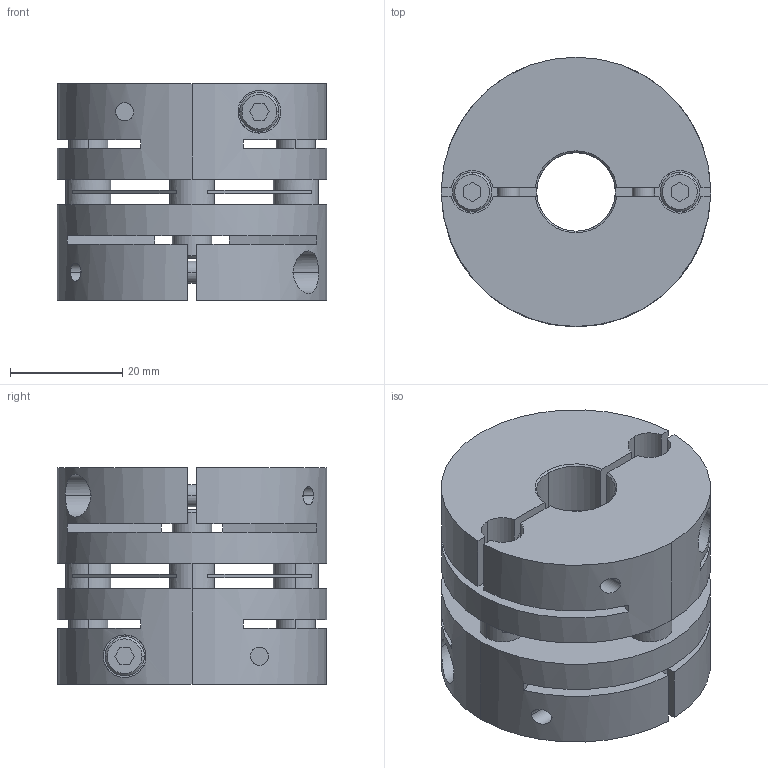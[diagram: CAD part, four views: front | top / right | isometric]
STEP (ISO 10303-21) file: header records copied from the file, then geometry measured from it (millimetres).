
FILE_DESCRIPTION((''),'2;1');
FILE_NAME('LAS-48C-14×16.stp','2013-06-12T09:38:26',(''),(''),'AutoCAD STEP 2000i','AutoCAD 2000i',', , ');
FILE_SCHEMA(('CONFIG_CONTROL_DESIGN'));
Length unit declared in the file: millimetre
Products named in the file (5): LAS-48C-12×12; 忣兜1; LA-4802-D12-1; LA-4802-D12; LAS48-ITA
Assembly tree (4 placements, depth 2):
  LAS-48C-12×12
    忣兜1
    LA-4802-D12-1
    LA-4802-D12
    LAS48-ITA
Bounding box: 48 x 48 x 38.6 mm (x, y, z)
Volume: 49752.1 mm3; surface area: 22496.4 mm2
Topology: 1 solids, 1 shells, 224 faces, 588 edges, 384 vertices
Faces by surface type: plane 112, cylinder 84, cone 28
Entity records: 7607 total; most frequent: CARTESIAN_POINT 1713, DIRECTION 1250, ORIENTED_EDGE 1176, EDGE_CURVE 588, AXIS2_PLACEMENT_3D 457, VERTEX_POINT 384, VECTOR 336, LINE 336
